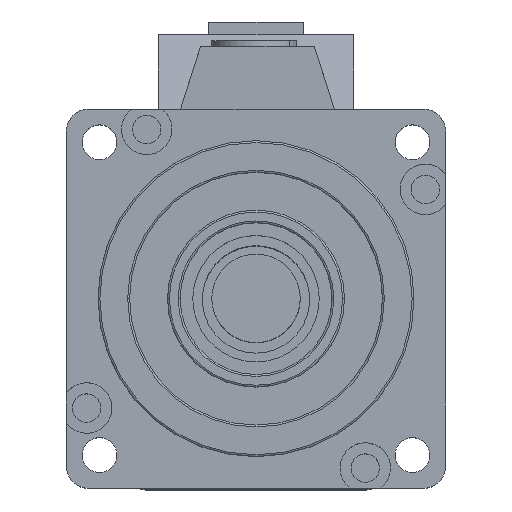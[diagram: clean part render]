
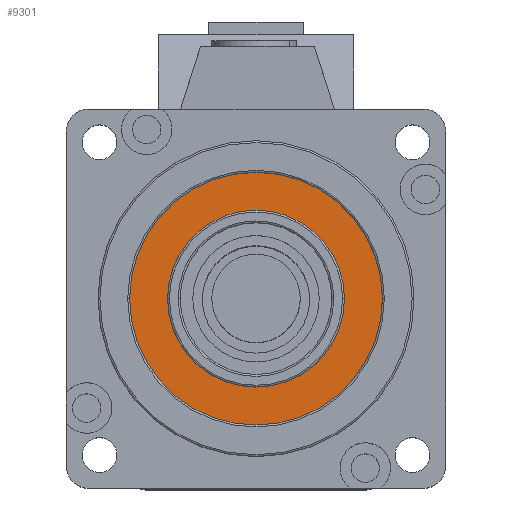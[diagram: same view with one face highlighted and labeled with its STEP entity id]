
A CAD part, top view. The second image highlights one B-rep face of the part: STEP entity #9301.
In plain terms, the highlighted planar face has unit normal (0, 0, 1).
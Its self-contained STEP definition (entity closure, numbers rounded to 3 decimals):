
#272 = VERTEX_POINT ( 'NONE', #10928 ) ;
#385 = EDGE_LOOP ( 'NONE', ( #4312, #13294 ) ) ;
#1003 = CARTESIAN_POINT ( 'NONE',  ( 50., 30., 0. ) ) ;
#1270 = AXIS2_PLACEMENT_3D ( 'NONE', #2955, #12180, #2915 ) ;
#1272 = ORIENTED_EDGE ( 'NONE', *, *, #6799, .T. ) ;
#2192 = DIRECTION ( 'NONE',  ( -1., 0., 0. ) ) ;
#2852 = DIRECTION ( 'NONE',  ( 0., 0., 1. ) ) ;
#2915 = DIRECTION ( 'NONE',  ( 1., 0., 0. ) ) ;
#2955 = CARTESIAN_POINT ( 'NONE',  ( 30., 30., 0. ) ) ;
#2983 = DIRECTION ( 'NONE',  ( 1., 0., 0. ) ) ;
#3076 = EDGE_CURVE ( 'NONE', #272, #8424, #12992, .T. ) ;
#3252 = AXIS2_PLACEMENT_3D ( 'NONE', #5961, #2852, #3939 ) ;
#3292 = AXIS2_PLACEMENT_3D ( 'NONE', #6506, #11715, #2192 ) ;
#3673 = CIRCLE ( 'NONE', #12401, 14. ) ;
#3939 = DIRECTION ( 'NONE',  ( -1., 0., 0. ) ) ;
#4312 = ORIENTED_EDGE ( 'NONE', *, *, #7546, .F. ) ;
#4583 = DIRECTION ( 'NONE',  ( -1., 0., 0. ) ) ;
#5092 = CARTESIAN_POINT ( 'NONE',  ( 30., 30., 0. ) ) ;
#5509 = EDGE_CURVE ( 'NONE', #12238, #11357, #6509, .T. ) ;
#5961 = CARTESIAN_POINT ( 'NONE',  ( 30., 30., 0. ) ) ;
#6377 = PLANE ( 'NONE',  #3292 ) ;
#6506 = CARTESIAN_POINT ( 'NONE',  ( 3.5, 56.5, 0. ) ) ;
#6509 = CIRCLE ( 'NONE', #6944, 20. ) ;
#6799 = EDGE_CURVE ( 'NONE', #11357, #12238, #6974, .T. ) ;
#6944 = AXIS2_PLACEMENT_3D ( 'NONE', #5092, #9255, #2983 ) ;
#6974 = CIRCLE ( 'NONE', #1270, 20. ) ;
#7546 = EDGE_CURVE ( 'NONE', #8424, #272, #3673, .T. ) ;
#8424 = VERTEX_POINT ( 'NONE', #12408 ) ;
#9255 = DIRECTION ( 'NONE',  ( 0., 0., 1. ) ) ;
#9301 = ADVANCED_FACE ( 'NONE', ( #9877, #10032 ), #6377, .F. ) ;
#9785 = CARTESIAN_POINT ( 'NONE',  ( 30., 30., 0. ) ) ;
#9877 = FACE_OUTER_BOUND ( 'NONE', #10623, .T. ) ;
#10032 = FACE_BOUND ( 'NONE', #385, .T. ) ;
#10623 = EDGE_LOOP ( 'NONE', ( #1272, #12084 ) ) ;
#10928 = CARTESIAN_POINT ( 'NONE',  ( 44., 30., 0. ) ) ;
#11357 = VERTEX_POINT ( 'NONE', #12279 ) ;
#11715 = DIRECTION ( 'NONE',  ( 0., 0., -1. ) ) ;
#11958 = DIRECTION ( 'NONE',  ( 0., 0., 1. ) ) ;
#12084 = ORIENTED_EDGE ( 'NONE', *, *, #5509, .T. ) ;
#12180 = DIRECTION ( 'NONE',  ( 0., 0., 1. ) ) ;
#12238 = VERTEX_POINT ( 'NONE', #1003 ) ;
#12279 = CARTESIAN_POINT ( 'NONE',  ( 10., 30., 0. ) ) ;
#12401 = AXIS2_PLACEMENT_3D ( 'NONE', #9785, #11958, #4583 ) ;
#12408 = CARTESIAN_POINT ( 'NONE',  ( 16., 30., 0. ) ) ;
#12992 = CIRCLE ( 'NONE', #3252, 14. ) ;
#13294 = ORIENTED_EDGE ( 'NONE', *, *, #3076, .F. ) ;
